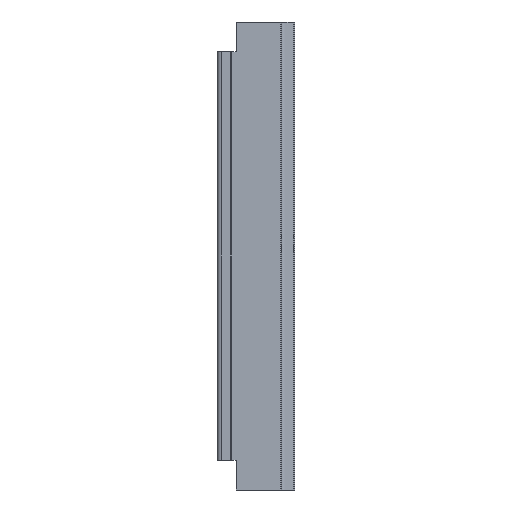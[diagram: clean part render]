
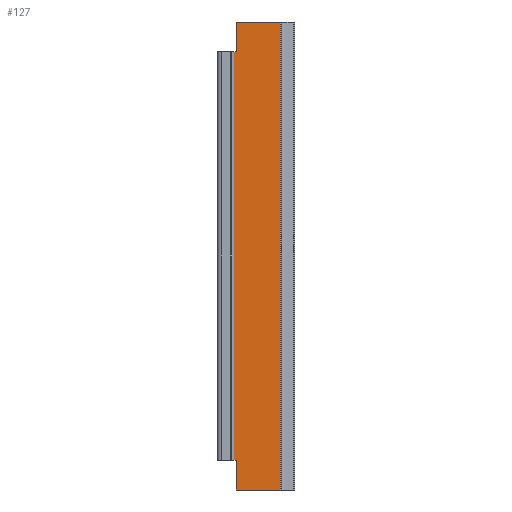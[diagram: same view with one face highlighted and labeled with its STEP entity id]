
A CAD part, left-side view. The second image highlights one B-rep face of the part: STEP entity #127.
In plain terms, the highlighted planar face has unit normal (-1, 0, 0).
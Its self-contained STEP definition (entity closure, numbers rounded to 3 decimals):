
#3 = FACE_OUTER_BOUND ( 'NONE', #900, .T. ) ;
#85 = CARTESIAN_POINT ( 'NONE',  ( -2.8, -17.7, 578. ) ) ;
#88 = CARTESIAN_POINT ( 'NONE',  ( -2.8, -72.063, 0. ) ) ;
#127 = ADVANCED_FACE ( 'NONE', ( #3 ), #579, .F. ) ;
#184 = AXIS2_PLACEMENT_3D ( 'NONE', #582, #588, #589 ) ;
#282 = LINE ( 'NONE', #1199, #283 ) ;
#283 = VECTOR ( 'NONE', #1200, 1000. ) ;
#290 = LINE ( 'NONE', #1210, #291 ) ;
#291 = VECTOR ( 'NONE', #1211, 1000. ) ;
#304 = LINE ( 'NONE', #1235, #316 ) ;
#316 = VECTOR ( 'NONE', #1242, 1000. ) ;
#349 = LINE ( 'NONE', #1284, #350 ) ;
#350 = VECTOR ( 'NONE', #1285, 1000. ) ;
#353 = LINE ( 'NONE', #1288, #354 ) ;
#354 = VECTOR ( 'NONE', #1289, 1000. ) ;
#355 = LINE ( 'NONE', #1290, #356 ) ;
#356 = VECTOR ( 'NONE', #1291, 1000. ) ;
#357 = LINE ( 'NONE', #1292, #358 ) ;
#358 = VECTOR ( 'NONE', #1293, 1000. ) ;
#359 = LINE ( 'NONE', #1294, #360 ) ;
#360 = VECTOR ( 'NONE', #1295, 1000. ) ;
#385 = VERTEX_POINT ( 'NONE', #636 ) ;
#387 = VERTEX_POINT ( 'NONE', #85 ) ;
#391 = VERTEX_POINT ( 'NONE', #88 ) ;
#422 = VERTEX_POINT ( 'NONE', #1062 ) ;
#430 = VERTEX_POINT ( 'NONE', #1070 ) ;
#433 = VERTEX_POINT ( 'NONE', #1073 ) ;
#444 = VERTEX_POINT ( 'NONE', #1082 ) ;
#445 = VERTEX_POINT ( 'NONE', #1083 ) ;
#579 = PLANE ( 'NONE',  #184 ) ;
#582 = CARTESIAN_POINT ( 'NONE',  ( -2.8, -14.555, 578. ) ) ;
#588 = DIRECTION ( 'NONE',  ( 1., 0., 0. ) ) ;
#589 = DIRECTION ( 'NONE',  ( 0., 1., 0. ) ) ;
#636 = CARTESIAN_POINT ( 'NONE',  ( -2.8, -72.063, 578. ) ) ;
#746 = ORIENTED_EDGE ( 'NONE', *, *, #993, .F. ) ;
#747 = ORIENTED_EDGE ( 'NONE', *, *, #1007, .T. ) ;
#748 = ORIENTED_EDGE ( 'NONE', *, *, #988, .T. ) ;
#749 = ORIENTED_EDGE ( 'NONE', *, *, #1028, .T. ) ;
#750 = ORIENTED_EDGE ( 'NONE', *, *, #1031, .T. ) ;
#751 = ORIENTED_EDGE ( 'NONE', *, *, #1026, .T. ) ;
#752 = ORIENTED_EDGE ( 'NONE', *, *, #1029, .T. ) ;
#753 = ORIENTED_EDGE ( 'NONE', *, *, #1030, .T. ) ;
#900 = EDGE_LOOP ( 'NONE', ( #753, #752, #751, #750, #749, #748, #747, #746 ) ) ;
#988 = EDGE_CURVE ( 'NONE', #422, #391, #282, .T. ) ;
#993 = EDGE_CURVE ( 'NONE', #387, #385, #290, .T. ) ;
#1007 = EDGE_CURVE ( 'NONE', #391, #385, #304, .T. ) ;
#1026 = EDGE_CURVE ( 'NONE', #430, #433, #349, .T. ) ;
#1028 = EDGE_CURVE ( 'NONE', #445, #422, #353, .T. ) ;
#1029 = EDGE_CURVE ( 'NONE', #444, #430, #355, .T. ) ;
#1030 = EDGE_CURVE ( 'NONE', #387, #444, #357, .T. ) ;
#1031 = EDGE_CURVE ( 'NONE', #433, #445, #359, .T. ) ;
#1062 = CARTESIAN_POINT ( 'NONE',  ( -2.8, -17.7, 0. ) ) ;
#1070 = CARTESIAN_POINT ( 'NONE',  ( -2.8, -14.928, 541.5 ) ) ;
#1073 = CARTESIAN_POINT ( 'NONE',  ( -2.8, -14.928, 36.5 ) ) ;
#1082 = CARTESIAN_POINT ( 'NONE',  ( -2.8, -17.7, 541.5 ) ) ;
#1083 = CARTESIAN_POINT ( 'NONE',  ( -2.8, -17.7, 36.5 ) ) ;
#1199 = CARTESIAN_POINT ( 'NONE',  ( -2.8, -14.555, 0. ) ) ;
#1200 = DIRECTION ( 'NONE',  ( 0., -1., 0. ) ) ;
#1210 = CARTESIAN_POINT ( 'NONE',  ( -2.8, -14.555, 578. ) ) ;
#1211 = DIRECTION ( 'NONE',  ( 0., -1., 0. ) ) ;
#1235 = CARTESIAN_POINT ( 'NONE',  ( -2.8, -72.063, 578. ) ) ;
#1242 = DIRECTION ( 'NONE',  ( 0., 0., 1. ) ) ;
#1284 = CARTESIAN_POINT ( 'NONE',  ( -2.8, -14.928, 578. ) ) ;
#1285 = DIRECTION ( 'NONE',  ( 0., 0., -1. ) ) ;
#1288 = CARTESIAN_POINT ( 'NONE',  ( -2.8, -17.7, 578. ) ) ;
#1289 = DIRECTION ( 'NONE',  ( 0., 0., -1. ) ) ;
#1290 = CARTESIAN_POINT ( 'NONE',  ( -2.8, -14.555, 541.5 ) ) ;
#1291 = DIRECTION ( 'NONE',  ( 0., 1., 0. ) ) ;
#1292 = CARTESIAN_POINT ( 'NONE',  ( -2.8, -17.7, 578. ) ) ;
#1293 = DIRECTION ( 'NONE',  ( 0., 0., -1. ) ) ;
#1294 = CARTESIAN_POINT ( 'NONE',  ( -2.8, -14.555, 36.5 ) ) ;
#1295 = DIRECTION ( 'NONE',  ( 0., -1., 0. ) ) ;
